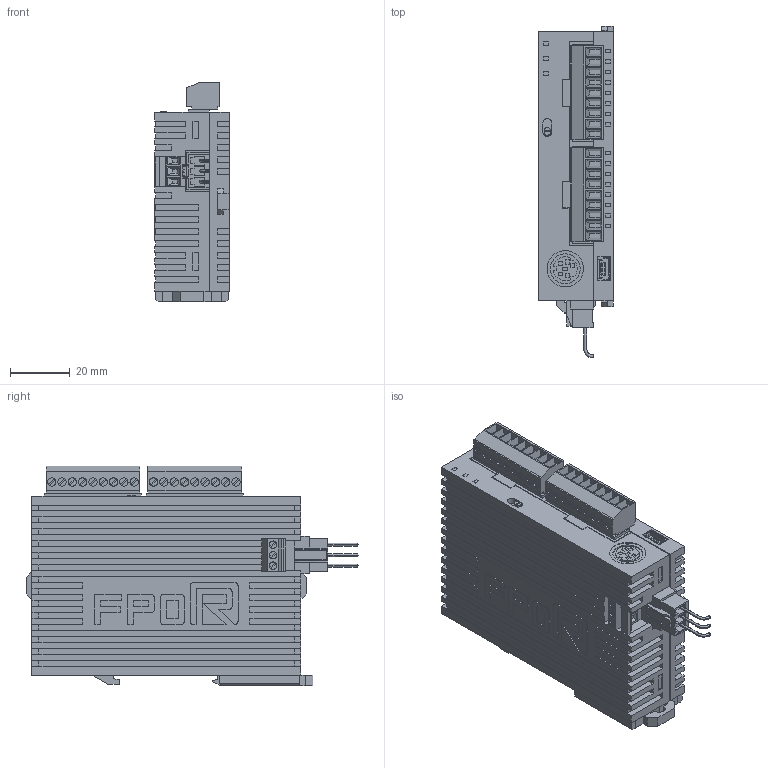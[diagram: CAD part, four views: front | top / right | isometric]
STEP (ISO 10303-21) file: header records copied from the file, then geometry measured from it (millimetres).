
FILE_DESCRIPTION (( 'STEP AP214' ), '1' );
FILE_NAME ('afp0rc14crs.stp', '2009-03-31T02:53:48', ( '' ), ( 'PanasonicElectricWorks' ), '', '', '' );
FILE_SCHEMA (( 'AUTOMOTIVE_DESIGN' ));
Length unit declared in the file: millimetre
Products named in the file (1): afp0rc14crs
Bounding box: 25 x 111.19 x 73.45 mm (x, y, z)
Volume: 138719.4 mm3; surface area: 28379.6 mm2
Topology: 1 solids, 4 shells, 1152 faces, 3079 edges, 2036 vertices
Faces by surface type: plane 1043, cylinder 97, bspline 12
Entity records: 56224 total; most frequent: CARTESIAN_POINT 14584, ORIENTED_EDGE 6158, DIRECTION 5590, EDGE_CURVE 3079, VECTOR 2766, LINE 2766, VERTEX_POINT 2036, AXIS2_PLACEMENT_3D 1412
